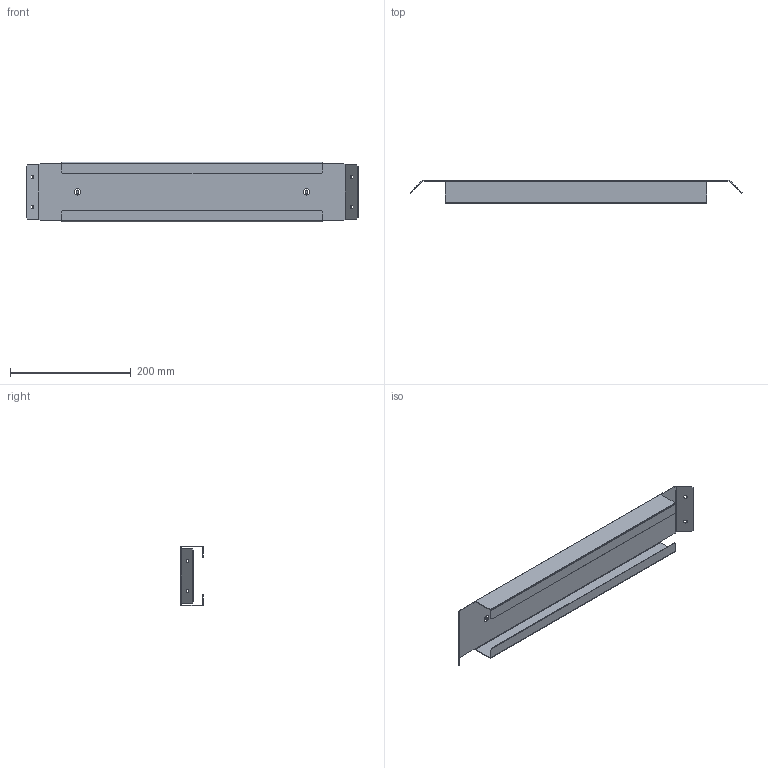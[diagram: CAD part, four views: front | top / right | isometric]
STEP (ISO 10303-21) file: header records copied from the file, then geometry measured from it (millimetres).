
FILE_DESCRIPTION (( 'STEP AP203' ), '1' );
FILE_NAME ('MA1.600.060620.20.01 Ïàíåëü öîêîëÿ Ø_Ã = 600 ìì, Â = 100 ìì.STEP', '2024-02-13T11:49:48', ( '' ), ( '' ), 'SwSTEP 2.0', 'SolidWorks 2021', '' );
FILE_SCHEMA (( 'CONFIG_CONTROL_DESIGN' ));
Length unit declared in the file: millimetre
Products named in the file (1): MA1.600.060620.20.01 Ïàíåëü öîêîëÿ Ø_Ã = 600 ìì, Â = 100 ìì
Bounding box: 550.67 x 38 x 99 mm (x, y, z)
Volume: 102119.6 mm3; surface area: 205970.9 mm2
Topology: 1 solids, 1 shells, 110 faces, 276 edges, 168 vertices
Faces by surface type: plane 74, cylinder 36
Entity records: 3353 total; most frequent: DIRECTION 570, CARTESIAN_POINT 555, ORIENTED_EDGE 552, EDGE_CURVE 276, LINE 204, VECTOR 204, AXIS2_PLACEMENT_3D 183, VERTEX_POINT 168
